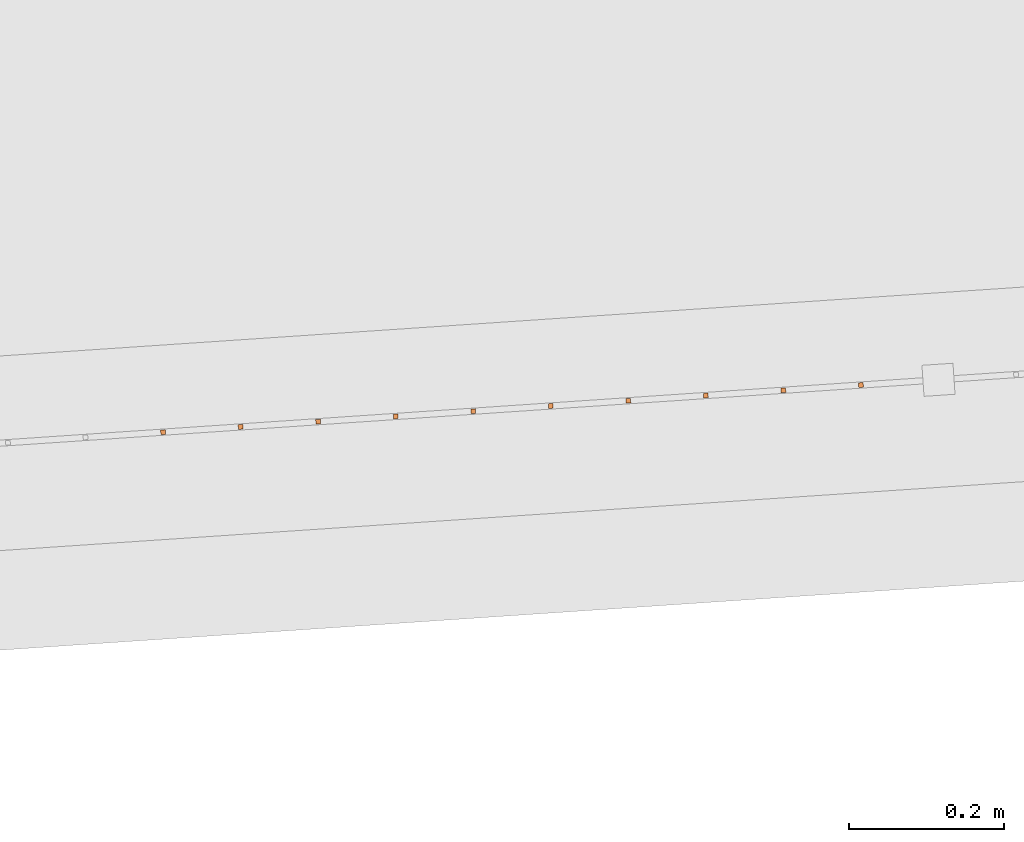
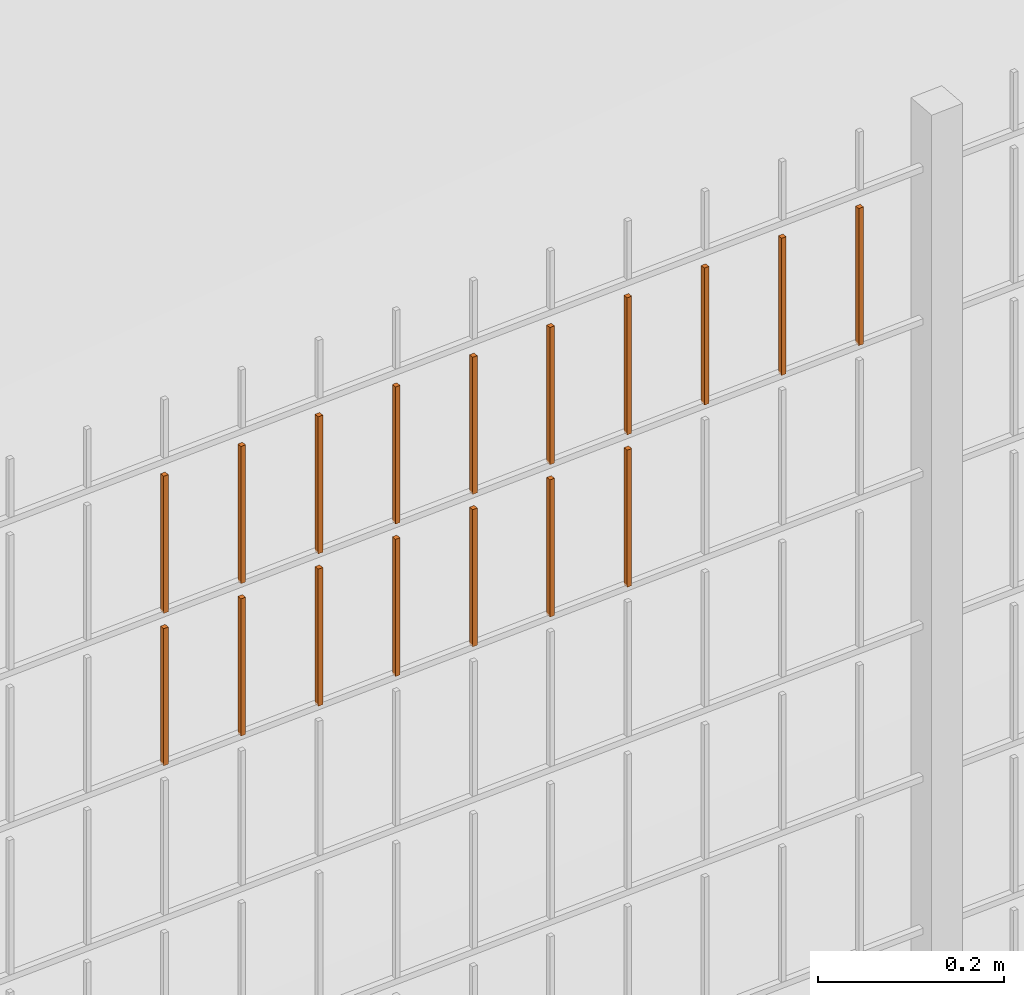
# One storey, part 180 of 1809: 17 proxies, 1 element without a shape of its own.
"""IFC2X3 building model written with IfcOpenShell, lengths in millimetres."""

from ifc_helpers import new_model, entity, si_unit, converted_unit, derived_unit, money_unit, direction, frame, origin_with_axes, place, context, subcontext, project, spatial, faceted_brep, source, transform, mapped, material, type_object, element, aggregate, save


model = new_model("IFC2X3")

# Units and contexts
model_context = context("Model", 3, precision=0.01, world=origin_with_axes(), true_north=direction((0.0, 1.0)))
body_context = subcontext(model_context, "Body", "Model", "MODEL_VIEW")
ifc_project = project(units=[si_unit("LENGTHUNIT", "METRE", prefix="MILLI"), si_unit("AREAUNIT", "SQUARE_METRE"), si_unit("VOLUMEUNIT", "CUBIC_METRE"), converted_unit("PLANEANGLEUNIT", "DEGREE", entity("IfcPlaneAngleMeasure", 0.0174532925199), si_unit("PLANEANGLEUNIT", "RADIAN"), dimensions=[0, 0, 0, 0, 0, 0, 0]), si_unit("SOLIDANGLEUNIT", "STERADIAN"), money_unit("EUR"), converted_unit("TIMEUNIT", "Year", entity("IfcTimeMeasure", 31556926.0), si_unit("TIMEUNIT", "SECOND"), dimensions=[0, 0, 1, 0, 0, 0, 0]), si_unit("MASSUNIT", "GRAM", prefix="KILO"), si_unit("THERMODYNAMICTEMPERATUREUNIT", "DEGREE_CELSIUS"), si_unit("LUMINOUSINTENSITYUNIT", "LUMEN"), si_unit("ENERGYUNIT", "JOULE", prefix="MEGA"), derived_unit("THERMALCONDUCTANCEUNIT", [(si_unit("POWERUNIT", "WATT"), 1), (si_unit("LENGTHUNIT", "METRE"), -1), (si_unit("THERMODYNAMICTEMPERATUREUNIT", "KELVIN"), -1)]), derived_unit("SPECIFICHEATCAPACITYUNIT", [(si_unit("ENERGYUNIT", "JOULE"), 1), (si_unit("MASSUNIT", "GRAM", prefix="KILO"), -1), (si_unit("THERMODYNAMICTEMPERATUREUNIT", "KELVIN"), -1)]), derived_unit("MASSDENSITYUNIT", [(si_unit("MASSUNIT", "GRAM", prefix="KILO"), 1), (si_unit("VOLUMEUNIT", "CUBIC_METRE"), -1)])], contexts=[model_context])

# Site, building, storey
site_placement = place(None, origin_with_axes())
site = spatial("IfcSite", under=ifc_project, at=site_placement, Name="Politse- ja Piirivalveameti ning Päästeameti ühishoone", CompositionType="ELEMENT")
building_placement = place(site_placement, origin_with_axes())
building = spatial("IfcBuilding", under=site, at=building_placement, Name="Politse- ja Piirivalveameti ning Päästeameti ühishoone", CompositionType="ELEMENT")
storey_placement = place(building_placement, origin_with_axes())
storey = spatial("IfcBuildingStorey", under=building, at=storey_placement, Name="Esimene korrus", CompositionType="ELEMENT", Elevation=0.0)

# Proxies
building_element_proxy_type_1 = type_object("IfcBuildingElementProxyType", Name="Railing Type", PredefinedType="NOTDEFINED")
proxy_1_placement = place(storey_placement, frame((89252.001212, -29183.4766571, 203.661247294), z_axis=(0.0, 0.0, 1.0), x_axis=(1.0, 0.0, 0.0)))
proxy_1 = element("IfcBuildingElementProxy", 1, at=proxy_1_placement, inside=storey, type_object=building_element_proxy_type_1, Name="PIIRDEAED")
ifc_material = material(Name="ET-03_Raud")
building_element_proxy_type_2 = type_object("IfcBuildingElementProxyType", Name="IfcBuildingElementProxy", PredefinedType="NOTDEFINED")
shared_shape_1 = source(origin_with_axes(), body_context, "Body", "Brep", [
    faceted_brep([(3.0, 3.0, -0.000752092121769), (-3.0, 3.0, -0.000752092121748), (-3.0, 3.0, 179.99926046), (3.0, 3.0, 179.99926046), (3.0, -3.0, 0.000752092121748), (-3.0, -3.0, 0.000752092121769), (-3.0, -3.0, 180.000764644), (3.0, -3.0, 180.000764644)], [[[0, 1, 2, 3]], [[0, 4, 5, 1]], [[1, 5, 6, 2]], [[3, 2, 6, 7]], [[4, 0, 3, 7]], [[5, 4, 7, 6]]]),
])
proxy_2_placement = place(proxy_1_placement, frame((-72860.6640022, -22219.2376487, 1808.92678661), z_axis=(0.0, 0.0, 1.0), x_axis=(1.0, 0.0, 0.0)))
proxy_2 = element("IfcBuildingElementProxy", 2, at=proxy_2_placement, type_object=building_element_proxy_type_2, material=ifc_material, Name="BALUSTER - 001", context=body_context, shape_type="MappedRepresentation", body=[
    mapped(shared_shape_1, transform((0.0, 0.0, 0.0), x_axis=(-0.0673926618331, 0.997726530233, 0.0), y_axis=(-0.997726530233, -0.0673926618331, 0.0), z_axis=(0.0, 0.0, 1.0))),
])
shared_shape_2 = source(origin_with_axes(), body_context, "Body", "Brep", [
    faceted_brep([(3.0, 3.0, -0.000752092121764), (-3.0, 3.0, -0.000752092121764), (-3.0, 3.0, 179.99926046), (3.0, 3.0, 179.99926046), (3.0, -3.0, 0.000752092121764), (-3.0, -3.0, 0.000752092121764), (-3.0, -3.0, 180.000764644), (3.0, -3.0, 180.000764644)], [[[0, 1, 2, 3]], [[0, 4, 5, 1]], [[1, 5, 6, 2]], [[3, 2, 6, 7]], [[4, 0, 3, 7]], [[5, 4, 7, 6]]]),
])
proxy_3_placement = place(proxy_1_placement, frame((-72760.8913492, -22212.4983825, 1808.95185635), z_axis=(0.0, 0.0, 1.0), x_axis=(1.0, 0.0, 0.0)))
proxy_3 = element("IfcBuildingElementProxy", 3, at=proxy_3_placement, type_object=building_element_proxy_type_2, material=ifc_material, Name="BALUSTER - 001", context=body_context, shape_type="MappedRepresentation", body=[
    mapped(shared_shape_2, transform((0.0, 0.0, 0.0), x_axis=(-0.0673926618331, 0.997726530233, 0.0), y_axis=(-0.997726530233, -0.0673926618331, 0.0), z_axis=(0.0, 0.0, 1.0))),
])
shared_shape_3 = source(origin_with_axes(), body_context, "Body", "Brep", [
    faceted_brep([(3.0, 3.0, -0.000752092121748), (-3.0, 3.0, -0.00075209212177), (-3.0, 3.0, 179.99926046), (3.0, 3.0, 179.99926046), (3.0, -3.0, 0.00075209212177), (-3.0, -3.0, 0.000752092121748), (-3.0, -3.0, 180.000764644), (3.0, -3.0, 180.000764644)], [[[0, 1, 2, 3]], [[0, 4, 5, 1]], [[1, 5, 6, 2]], [[3, 2, 6, 7]], [[4, 0, 3, 7]], [[5, 4, 7, 6]]]),
])
proxy_4_placement = place(proxy_1_placement, frame((-72361.8007371, -22185.5413178, 1809.0521353), z_axis=(0.0, 0.0, 1.0), x_axis=(1.0, 0.0, 0.0)))
proxy_4 = element("IfcBuildingElementProxy", 4, at=proxy_4_placement, type_object=building_element_proxy_type_2, material=ifc_material, Name="BALUSTER - 001", context=body_context, shape_type="MappedRepresentation", body=[
    mapped(shared_shape_3, transform((0.0, 0.0, 0.0), x_axis=(-0.0673926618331, 0.997726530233, 0.0), y_axis=(-0.997726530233, -0.0673926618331, 0.0), z_axis=(0.0, 0.0, 1.0))),
])
shared_shape_4 = source(origin_with_axes(), body_context, "Body", "Brep", [
    faceted_brep([(3.0, 3.0, -0.000752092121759), (-3.0, 3.0, -0.000752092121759), (-3.0, 3.0, 179.99926046), (3.0, 3.0, 179.99926046), (3.0, -3.0, 0.000752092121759), (-3.0, -3.0, 0.000752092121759), (-3.0, -3.0, 180.000764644), (3.0, -3.0, 180.000764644)], [[[0, 1, 2, 3]], [[0, 4, 5, 1]], [[1, 5, 6, 2]], [[3, 2, 6, 7]], [[4, 0, 3, 7]], [[5, 4, 7, 6]]]),
])
proxy_5_placement = place(proxy_1_placement, frame((-72561.3460431, -22199.0198502, 1809.00199582), z_axis=(0.0, 0.0, 1.0), x_axis=(1.0, 0.0, 0.0)))
proxy_5 = element("IfcBuildingElementProxy", 5, at=proxy_5_placement, type_object=building_element_proxy_type_2, material=ifc_material, Name="BALUSTER - 001", context=body_context, shape_type="MappedRepresentation", body=[
    mapped(shared_shape_4, transform((0.0, 0.0, 0.0), x_axis=(-0.0673926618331, 0.997726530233, 0.0), y_axis=(-0.997726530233, -0.0673926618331, 0.0), z_axis=(0.0, 0.0, 1.0))),
])
shared_shape_5 = source(origin_with_axes(), body_context, "Body", "Brep", [
    faceted_brep([(3.0, 3.0, -0.000752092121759), (-3.0, 3.0, -0.000752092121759), (-3.0, 3.0, 179.99926046), (3.0, 3.0, 179.99926046), (3.0, -3.0, 0.000752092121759), (-3.0, -3.0, 0.000752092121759), (-3.0, -3.0, 180.000764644), (3.0, -3.0, 180.000764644)], [[[0, 1, 2, 3]], [[0, 4, 5, 1]], [[1, 5, 6, 2]], [[3, 2, 6, 7]], [[4, 0, 3, 7]], [[5, 4, 7, 6]]]),
])
proxy_6_placement = place(proxy_1_placement, frame((-72262.0280841, -22178.8020516, 1809.07720503), z_axis=(0.0, 0.0, 1.0), x_axis=(1.0, 0.0, 0.0)))
proxy_6 = element("IfcBuildingElementProxy", 6, at=proxy_6_placement, type_object=building_element_proxy_type_2, material=ifc_material, Name="BALUSTER - 001", context=body_context, shape_type="MappedRepresentation", body=[
    mapped(shared_shape_5, transform((0.0, 0.0, 0.0), x_axis=(-0.0673926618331, 0.997726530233, 0.0), y_axis=(-0.997726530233, -0.0673926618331, 0.0), z_axis=(0.0, 0.0, 1.0))),
])
shared_shape_6 = source(origin_with_axes(), body_context, "Body", "Brep", [
    faceted_brep([(3.0, 3.0, -0.000752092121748), (-3.0, 3.0, -0.00075209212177), (-3.0, 3.0, 179.99926046), (3.0, 3.0, 179.99926046), (3.0, -3.0, 0.00075209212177), (-3.0, -3.0, 0.000752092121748), (-3.0, -3.0, 180.000764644), (3.0, -3.0, 180.000764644)], [[[0, 1, 2, 3]], [[0, 4, 5, 1]], [[1, 5, 6, 2]], [[3, 2, 6, 7]], [[4, 0, 3, 7]], [[5, 4, 7, 6]]]),
])
proxy_7_placement = place(proxy_1_placement, frame((-72461.5733901, -22192.280584, 1809.02706556), z_axis=(0.0, 0.0, 1.0), x_axis=(1.0, 0.0, 0.0)))
proxy_7 = element("IfcBuildingElementProxy", 7, at=proxy_7_placement, type_object=building_element_proxy_type_2, material=ifc_material, Name="BALUSTER - 001", context=body_context, shape_type="MappedRepresentation", body=[
    mapped(shared_shape_6, transform((0.0, 0.0, 0.0), x_axis=(-0.0673926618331, 0.997726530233, 0.0), y_axis=(-0.997726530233, -0.0673926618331, 0.0), z_axis=(0.0, 0.0, 1.0))),
])
proxy_8_placement = place(proxy_1_placement, frame((-73060.2093082, -22232.7161811, 1808.87664714), z_axis=(0.0, 0.0, 1.0), x_axis=(1.0, 0.0, 0.0)))
proxy_8 = element("IfcBuildingElementProxy", 8, at=proxy_8_placement, type_object=building_element_proxy_type_2, material=ifc_material, Name="BALUSTER - 001", context=body_context, shape_type="MappedRepresentation", body=[
    mapped(shared_shape_6, transform((0.0, 0.0, 0.0), x_axis=(-0.0673926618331, 0.997726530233, 0.0), y_axis=(-0.997726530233, -0.0673926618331, 0.0), z_axis=(0.0, 0.0, 1.0))),
])
shared_shape_7 = source(origin_with_axes(), body_context, "Body", "Brep", [
    faceted_brep([(3.0, 3.0, -0.000752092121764), (-3.0, 3.0, -0.000752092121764), (-3.0, 3.0, 179.99926046), (3.0, 3.0, 179.99926046), (3.0, -3.0, 0.000752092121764), (-3.0, -3.0, 0.000752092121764), (-3.0, -3.0, 180.000764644), (3.0, -3.0, 180.000764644)], [[[0, 1, 2, 3]], [[0, 4, 5, 1]], [[1, 5, 6, 2]], [[3, 2, 6, 7]], [[4, 0, 3, 7]], [[5, 4, 7, 6]]]),
])
proxy_9_placement = place(proxy_1_placement, frame((-72760.8913492, -22212.4983825, 1608.95185635), z_axis=(0.0, 0.0, 1.0), x_axis=(1.0, 0.0, 0.0)))
proxy_9 = element("IfcBuildingElementProxy", 9, at=proxy_9_placement, type_object=building_element_proxy_type_2, material=ifc_material, Name="BALUSTER - 001", context=body_context, shape_type="MappedRepresentation", body=[
    mapped(shared_shape_7, transform((0.0, 0.0, 0.0), x_axis=(-0.0673926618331, 0.997726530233, 0.0), y_axis=(-0.997726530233, -0.0673926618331, 0.0), z_axis=(0.0, 0.0, 1.0))),
])
shared_shape_8 = source(origin_with_axes(), body_context, "Body", "Brep", [
    faceted_brep([(3.0, 3.0, -0.000752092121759), (-3.0, 3.0, -0.000752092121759), (-3.0, 3.0, 179.99926046), (3.0, 3.0, 179.99926046), (3.0, -3.0, 0.000752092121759), (-3.0, -3.0, 0.000752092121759), (-3.0, -3.0, 180.000764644), (3.0, -3.0, 180.000764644)], [[[0, 1, 2, 3]], [[0, 4, 5, 1]], [[1, 5, 6, 2]], [[3, 2, 6, 7]], [[4, 0, 3, 7]], [[5, 4, 7, 6]]]),
])
proxy_10_placement = place(proxy_1_placement, frame((-72661.1186962, -22205.7591164, 1608.97692608), z_axis=(0.0, 0.0, 1.0), x_axis=(1.0, 0.0, 0.0)))
proxy_10 = element("IfcBuildingElementProxy", 10, at=proxy_10_placement, type_object=building_element_proxy_type_2, material=ifc_material, Name="BALUSTER - 001", context=body_context, shape_type="MappedRepresentation", body=[
    mapped(shared_shape_8, transform((0.0, 0.0, 0.0), x_axis=(-0.0673926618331, 0.997726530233, 0.0), y_axis=(-0.997726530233, -0.0673926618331, 0.0), z_axis=(0.0, 0.0, 1.0))),
])
shared_shape_9 = source(origin_with_axes(), body_context, "Body", "Brep", [
    faceted_brep([(3.0, 3.0, -0.000752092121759), (-3.0, 3.0, -0.000752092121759), (-3.0, 3.0, 179.99926046), (3.0, 3.0, 179.99926046), (3.0, -3.0, 0.000752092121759), (-3.0, -3.0, 0.000752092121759), (-3.0, -3.0, 180.000764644), (3.0, -3.0, 180.000764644)], [[[0, 1, 2, 3]], [[0, 4, 5, 1]], [[1, 5, 6, 2]], [[3, 2, 6, 7]], [[4, 0, 3, 7]], [[5, 4, 7, 6]]]),
])
proxy_11_placement = place(proxy_1_placement, frame((-72661.1186962, -22205.7591164, 1808.97692608), z_axis=(0.0, 0.0, 1.0), x_axis=(1.0, 0.0, 0.0)))
proxy_11 = element("IfcBuildingElementProxy", 11, at=proxy_11_placement, type_object=building_element_proxy_type_2, material=ifc_material, Name="BALUSTER - 001", context=body_context, shape_type="MappedRepresentation", body=[
    mapped(shared_shape_9, transform((0.0, 0.0, 0.0), x_axis=(-0.0673926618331, 0.997726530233, 0.0), y_axis=(-0.997726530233, -0.0673926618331, 0.0), z_axis=(0.0, 0.0, 1.0))),
])
shared_shape_10 = source(origin_with_axes(), body_context, "Body", "Brep", [
    faceted_brep([(3.0, 3.0, -0.000752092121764), (-3.0, 3.0, -0.000752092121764), (-3.0, 3.0, 179.99926046), (3.0, 3.0, 179.99926046), (3.0, -3.0, 0.000752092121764), (-3.0, -3.0, 0.000752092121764), (-3.0, -3.0, 180.000764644), (3.0, -3.0, 180.000764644)], [[[0, 1, 2, 3]], [[0, 4, 5, 1]], [[1, 5, 6, 2]], [[3, 2, 6, 7]], [[4, 0, 3, 7]], [[5, 4, 7, 6]]]),
])
proxy_12_placement = place(proxy_1_placement, frame((-73159.9819613, -22239.4554473, 1608.8515774), z_axis=(0.0, 0.0, 1.0), x_axis=(1.0, 0.0, 0.0)))
proxy_12 = element("IfcBuildingElementProxy", 12, at=proxy_12_placement, type_object=building_element_proxy_type_2, material=ifc_material, Name="BALUSTER - 001", context=body_context, shape_type="MappedRepresentation", body=[
    mapped(shared_shape_10, transform((0.0, 0.0, 0.0), x_axis=(-0.0673926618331, 0.997726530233, 0.0), y_axis=(-0.997726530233, -0.0673926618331, 0.0), z_axis=(0.0, 0.0, 1.0))),
])
shared_shape_11 = source(origin_with_axes(), body_context, "Body", "Brep", [
    faceted_brep([(3.0, 3.0, -0.000752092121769), (-3.0, 3.0, -0.00075209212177), (-3.0, 3.0, 179.99926046), (3.0, 3.0, 179.99926046), (3.0, -3.0, 0.00075209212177), (-3.0, -3.0, 0.000752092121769), (-3.0, -3.0, 180.000764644), (3.0, -3.0, 180.000764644)], [[[0, 1, 2, 3]], [[0, 4, 5, 1]], [[1, 5, 6, 2]], [[3, 2, 6, 7]], [[4, 0, 3, 7]], [[5, 4, 7, 6]]]),
])
proxy_13_placement = place(proxy_1_placement, frame((-73159.9819613, -22239.4554473, 1808.8515774), z_axis=(0.0, 0.0, 1.0), x_axis=(1.0, 0.0, 0.0)))
proxy_13 = element("IfcBuildingElementProxy", 13, at=proxy_13_placement, type_object=building_element_proxy_type_2, material=ifc_material, Name="BALUSTER - 001", context=body_context, shape_type="MappedRepresentation", body=[
    mapped(shared_shape_11, transform((0.0, 0.0, 0.0), x_axis=(-0.0673926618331, 0.997726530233, 0.0), y_axis=(-0.997726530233, -0.0673926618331, 0.0), z_axis=(0.0, 0.0, 1.0))),
])
shared_shape_12 = source(origin_with_axes(), body_context, "Body", "Brep", [
    faceted_brep([(3.0, 3.0, -0.000752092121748), (-3.0, 3.0, -0.00075209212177), (-3.0, 3.0, 179.99926046), (3.0, 3.0, 179.99926046), (3.0, -3.0, 0.00075209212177), (-3.0, -3.0, 0.000752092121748), (-3.0, -3.0, 180.000764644), (3.0, -3.0, 180.000764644)], [[[0, 1, 2, 3]], [[0, 4, 5, 1]], [[1, 5, 6, 2]], [[3, 2, 6, 7]], [[4, 0, 3, 7]], [[5, 4, 7, 6]]]),
])
proxy_14_placement = place(proxy_1_placement, frame((-72960.4366552, -22225.9769149, 1608.90171687), z_axis=(0.0, 0.0, 1.0), x_axis=(1.0, 0.0, 0.0)))
proxy_14 = element("IfcBuildingElementProxy", 14, at=proxy_14_placement, type_object=building_element_proxy_type_2, material=ifc_material, Name="BALUSTER - 001", context=body_context, shape_type="MappedRepresentation", body=[
    mapped(shared_shape_12, transform((0.0, 0.0, 0.0), x_axis=(-0.0673926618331, 0.997726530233, 0.0), y_axis=(-0.997726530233, -0.0673926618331, 0.0), z_axis=(0.0, 0.0, 1.0))),
])
shared_shape_13 = source(origin_with_axes(), body_context, "Body", "Brep", [
    faceted_brep([(3.0, 3.0, -0.000752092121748), (-3.0, 3.0, -0.00075209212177), (-3.0, 3.0, 179.99926046), (3.0, 3.0, 179.99926046), (3.0, -3.0, 0.00075209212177), (-3.0, -3.0, 0.000752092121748), (-3.0, -3.0, 180.000764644), (3.0, -3.0, 180.000764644)], [[[0, 1, 2, 3]], [[0, 4, 5, 1]], [[1, 5, 6, 2]], [[3, 2, 6, 7]], [[4, 0, 3, 7]], [[5, 4, 7, 6]]]),
])
proxy_15_placement = place(proxy_1_placement, frame((-72960.4366552, -22225.9769149, 1808.90171687), z_axis=(0.0, 0.0, 1.0), x_axis=(1.0, 0.0, 0.0)))
proxy_15 = element("IfcBuildingElementProxy", 15, at=proxy_15_placement, type_object=building_element_proxy_type_2, material=ifc_material, Name="BALUSTER - 001", context=body_context, shape_type="MappedRepresentation", body=[
    mapped(shared_shape_13, transform((0.0, 0.0, 0.0), x_axis=(-0.0673926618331, 0.997726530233, 0.0), y_axis=(-0.997726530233, -0.0673926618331, 0.0), z_axis=(0.0, 0.0, 1.0))),
])
shared_shape_14 = source(origin_with_axes(), body_context, "Body", "Brep", [
    faceted_brep([(3.0, 3.0, -0.000752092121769), (-3.0, 3.0, -0.000752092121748), (-3.0, 3.0, 179.99926046), (3.0, 3.0, 179.99926046), (3.0, -3.0, 0.000752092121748), (-3.0, -3.0, 0.000752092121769), (-3.0, -3.0, 180.000764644), (3.0, -3.0, 180.000764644)], [[[0, 1, 2, 3]], [[0, 4, 5, 1]], [[1, 5, 6, 2]], [[3, 2, 6, 7]], [[4, 0, 3, 7]], [[5, 4, 7, 6]]]),
])
proxy_16_placement = place(proxy_1_placement, frame((-72860.6640022, -22219.2376487, 1608.92678661), z_axis=(0.0, 0.0, 1.0), x_axis=(1.0, 0.0, 0.0)))
proxy_16 = element("IfcBuildingElementProxy", 16, at=proxy_16_placement, type_object=building_element_proxy_type_2, material=ifc_material, Name="BALUSTER - 001", context=body_context, shape_type="MappedRepresentation", body=[
    mapped(shared_shape_14, transform((0.0, 0.0, 0.0), x_axis=(-0.0673926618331, 0.997726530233, 0.0), y_axis=(-0.997726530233, -0.0673926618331, 0.0), z_axis=(0.0, 0.0, 1.0))),
])
shared_shape_15 = source(origin_with_axes(), body_context, "Body", "Brep", [
    faceted_brep([(3.0, 3.0, -0.000752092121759), (-3.0, 3.0, -0.000752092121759), (-3.0, 3.0, 179.99926046), (3.0, 3.0, 179.99926046), (3.0, -3.0, 0.000752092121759), (-3.0, -3.0, 0.000752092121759), (-3.0, -3.0, 180.000764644), (3.0, -3.0, 180.000764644)], [[[0, 1, 2, 3]], [[0, 4, 5, 1]], [[1, 5, 6, 2]], [[3, 2, 6, 7]], [[4, 0, 3, 7]], [[5, 4, 7, 6]]]),
])
proxy_17_placement = place(proxy_1_placement, frame((-72561.3460431, -22199.0198502, 1609.00199582), z_axis=(0.0, 0.0, 1.0), x_axis=(1.0, 0.0, 0.0)))
proxy_17 = element("IfcBuildingElementProxy", 17, at=proxy_17_placement, type_object=building_element_proxy_type_2, material=ifc_material, Name="BALUSTER - 001", context=body_context, shape_type="MappedRepresentation", body=[
    mapped(shared_shape_15, transform((0.0, 0.0, 0.0), x_axis=(-0.0673926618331, 0.997726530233, 0.0), y_axis=(-0.997726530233, -0.0673926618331, 0.0), z_axis=(0.0, 0.0, 1.0))),
])
shared_shape_16 = source(origin_with_axes(), body_context, "Body", "Brep", [
    faceted_brep([(3.0, 3.0, -0.000752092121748), (-3.0, 3.0, -0.00075209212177), (-3.0, 3.0, 179.99926046), (3.0, 3.0, 179.99926046), (3.0, -3.0, 0.00075209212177), (-3.0, -3.0, 0.000752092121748), (-3.0, -3.0, 180.000764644), (3.0, -3.0, 180.000764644)], [[[0, 1, 2, 3]], [[0, 4, 5, 1]], [[1, 5, 6, 2]], [[3, 2, 6, 7]], [[4, 0, 3, 7]], [[5, 4, 7, 6]]]),
])
proxy_18_placement = place(proxy_1_placement, frame((-73060.2093082, -22232.7161811, 1608.87664714), z_axis=(0.0, 0.0, 1.0), x_axis=(1.0, 0.0, 0.0)))
proxy_18 = element("IfcBuildingElementProxy", 18, at=proxy_18_placement, type_object=building_element_proxy_type_2, material=ifc_material, Name="BALUSTER - 001", context=body_context, shape_type="MappedRepresentation", body=[
    mapped(shared_shape_16, transform((0.0, 0.0, 0.0), x_axis=(-0.0673926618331, 0.997726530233, 0.0), y_axis=(-0.997726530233, -0.0673926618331, 0.0), z_axis=(0.0, 0.0, 1.0))),
])
aggregate(proxy_1, [proxy_17, proxy_10, proxy_9, proxy_16, proxy_14, proxy_18, proxy_12, proxy_6, proxy_4, proxy_7, proxy_5, proxy_11, proxy_3, proxy_2, proxy_15, proxy_8, proxy_13])

save(model, "model.ifc")
